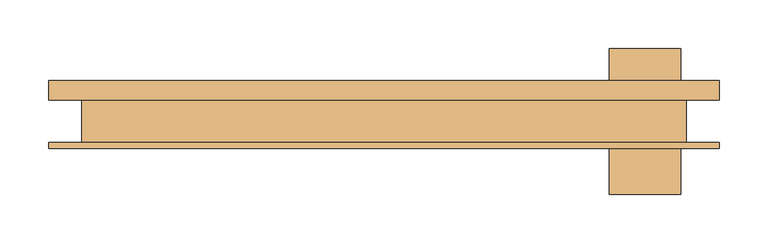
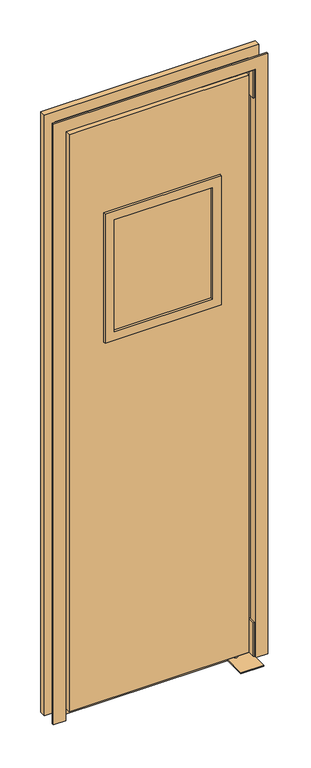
"""IFC4 building model written with IfcOpenShell, lengths in millimetres: door geometry, 片開きスイングドア_窓付_FCG : W610xH2005xt40."""

from ifc_helpers import new_model, si_unit, point, frame, frame_2d, origin, place, context, project, spatial, polyline, circle_curve, trimmed, segment, composite_curve, outline, extrude, faceted_brep, source, transform, mapped, element, save


def door_bd9080c8(model_context):
    return source(origin(), model_context, "Body", "SolidModel", [
        extrude(outline(polyline([(0.0, 305.0), (2005.0, 305.0), (2005.0, -305.0), (0.0, -305.0), (0.0, 305.0)]), holes=[polyline([(20.0, 289.5), (20.0, -289.5), (1985.0, -289.5), (1985.0, 289.5), (20.0, 289.5)])]), frame((0.0, -1.0, 0.0), z_axis=(0.0, 1.0, 0.0), x_axis=(0.0, 0.0, 1.0)), (0.0, 0.0, 1.0), 2.0),
        faceted_brep([(-305.0, -28.000005, 0.0), (-344.999995, -28.000005, 0.0), (-344.999995, -22.0, 0.0), (-311.0, -22.0, 0.0), (-311.0, 22.0, 0.0), (-344.999995, 22.0, 0.0), (-344.999995, 42.0, 0.0), (-305.0, 42.0, 0.0), (-305.0, -28.000005, 2005.0), (305.0, -28.000005, 2005.0), (305.0, -28.000005, 0.0), (344.999995, -28.000005, 0.0), (344.999995, -28.000005, 2044.999995), (-344.999995, -28.000005, 2044.999995), (-344.999995, -22.0, 2044.999995), (344.999995, -22.0, 2044.999995), (344.999995, -22.0, 0.0), (311.0, -22.0, 0.0), (311.0, -22.0, 2011.0), (-311.0, -22.0, 2011.0), (-311.0, 22.0, 2011.0), (311.0, 22.0, 2011.0), (311.0, 22.0, 0.0), (344.999995, 22.0, 0.0), (344.999995, 22.0, 2044.999995), (-344.999995, 22.0, 2044.999995), (-344.999995, 42.0, 2044.999995), (344.999995, 42.0, 2044.999995), (344.999995, 42.0, 0.0), (305.0, 42.0, 0.0), (305.0, 42.0, 2005.0), (-305.0, 42.0, 2005.0)], [[[0, 1, 2, 3, 4, 5, 6, 7]], [[1, 0, 8, 9, 10, 11, 12, 13]], [[2, 1, 13, 14]], [[3, 2, 14, 15, 16, 17, 18, 19]], [[4, 3, 19, 20]], [[5, 4, 20, 21, 22, 23, 24, 25]], [[6, 5, 25, 26]], [[7, 6, 26, 27, 28, 29, 30, 31]], [[0, 7, 31, 8]], [[9, 30, 29, 10]], [[10, 29, 28, 23, 22, 17, 16, 11]], [[15, 12, 11, 16]], [[21, 18, 17, 22]], [[27, 24, 23, 28]], [[20, 19, 18, 21]], [[26, 25, 24, 27]], [[8, 31, 30, 9]], [[14, 13, 12, 15]]]),
        extrude(outline(polyline([(-148.5, 20.0), (166.5, 20.0), (166.5, 15.0), (-148.5, 15.0), (-148.5, 20.0)])), frame((0.0, 0.0, 1270.0), z_axis=(0.0, 0.0, 1.0), x_axis=(1.0, 0.0, 0.0)), (0.0, 0.0, 1.0), 380.0),
        extrude(outline(polyline([(166.5, -20.0), (-148.5, -20.0), (-148.5, -15.0), (166.5, -15.0), (166.5, -20.0)])), frame((0.0, 0.0, 1270.0), z_axis=(0.0, 0.0, 1.0), x_axis=(1.0, 0.0, 0.0)), (0.0, 0.0, 1.0), 380.0),
        extrude(outline(polyline([(1240.0, -178.5), (1240.0, 196.5), (1680.0, 196.5), (1680.0, -178.5), (1240.0, -178.5)]), holes=[polyline([(1650.0, -148.5), (1650.0, 166.5), (1270.0, 166.5), (1270.0, -148.5), (1650.0, -148.5)])]), frame((0.0, -28.0, 0.0), z_axis=(0.0, 1.0, 0.0), x_axis=(0.0, 0.0, 1.0)), (0.0, 0.0, 1.0), 56.0),
        extrude(outline(polyline([(2001.00012, 134.99968), (2001.00012, 300.99982), (1905.00036, 300.99982), (1905.00036, 305.0), (2005.0, 305.0), (2005.0, 134.99968), (2001.00012, 134.99968)])), frame((0.0, -25.0, 0.0), z_axis=(0.0, 1.0, 0.0), x_axis=(0.0, 0.0, 1.0)), (0.0, 0.0, 1.0), 50.0),
        extrude(outline(composite_curve([segment(trimmed(circle_curve(frame_2d((257.999995, 0.0)), 6.5), [point((257.999995, -6.5))], [point((257.999995, 6.5))], False, "CARTESIAN"), True, "CONTINUOUS"), segment(trimmed(circle_curve(frame_2d((257.999995, 0.0)), 6.5), [point((257.999995, 6.5))], [point((257.999995, -6.5))], False, "CARTESIAN"), True, "CONTINUOUS")], self_intersect=False)), frame((0.0, 0.0, 1985.0), z_axis=(0.0, 0.0, 1.0), x_axis=(1.0, 0.0, 0.0)), (0.0, 0.0, 1.0), 16.00012),
        extrude(outline(composite_curve([segment(trimmed(circle_curve(frame_2d((257.999995, 0.0)), 6.5), [point((251.499995, 0.0))], [point((264.499995, 0.0))], False, "CARTESIAN"), True, "CONTINUOUS"), segment(trimmed(circle_curve(frame_2d((257.999995, 0.0)), 6.5), [point((264.499995, 0.0))], [point((251.499995, 0.0))], False, "CARTESIAN"), True, "CONTINUOUS")], self_intersect=False)), frame((0.0, 0.0, 4.0), z_axis=(0.0, 0.0, 1.0), x_axis=(1.0, 0.0, 0.0)), (0.0, 0.0, 1.0), 16.0),
        faceted_brep([(301.00032, -25.0, 120.0), (301.00032, -25.0, 4.0), (305.0, -25.0, 4.0), (305.0, -25.0, 120.0), (301.00032, 25.0, 120.0), (305.0, 25.0, 120.0), (305.0, 25.0, 4.0), (301.00032, 25.0, 4.0), (305.0, -75.0, 4.0), (305.0, -75.0, 0.0), (305.0, 75.0, 0.0), (305.0, 75.0, 4.0), (231.50032, -75.0, 0.0), (231.50032, 75.0, 0.0), (231.50032, -75.0, 4.0), (231.50032, 75.0, 4.0)], [[[0, 1, 2, 3]], [[4, 5, 6, 7]], [[0, 3, 5, 4]], [[5, 3, 2, 8, 9, 10, 11, 6]], [[10, 9, 12, 13]], [[13, 12, 14, 15]], [[15, 14, 8, 2, 1, 7, 6, 11]], [[1, 0, 4, 7]], [[14, 12, 9, 8]], [[15, 11, 10, 13]]]),
        extrude(outline(polyline([(1985.0, -289.5), (20.0, -289.5), (20.0, 289.5), (1985.0, 289.5), (1985.0, -289.5)]), holes=[polyline([(1680.0, -178.5), (1680.0, 196.5), (1240.0, 196.5), (1240.0, -178.5), (1680.0, -178.5)])]), frame((0.0, -20.0, 0.0), z_axis=(0.0, 1.0, 0.0), x_axis=(0.0, 0.0, 1.0)), (0.0, 0.0, 1.0), 40.0),
    ])


if __name__ == "__main__":
    model = new_model("IFC4")
    model_context = context("Model", 3, world=origin())
    ifc_project = project(units=[si_unit("LENGTHUNIT", "METRE", prefix="MILLI")], contexts=[model_context])
    site = spatial("IfcSite", under=ifc_project)
    building = spatial("IfcBuilding", under=site)
    placement = place(None, origin())
    door_shape = door_bd9080c8(model_context)
    element("IfcDoor", 1, ObjectType="片開きスイングドア_窓付_FCG : W610xH2005xt40", at=placement, inside=building, context=model_context, shape_type="MappedRepresentation", body=[
        mapped(door_shape, transform((0.0, 0.0, 0.0), x_axis=(1.0, 0.0, 0.0), y_axis=(0.0, 1.0, 0.0), z_axis=(0.0, 0.0, 1.0))),
    ])
    save(model, "model.ifc")
